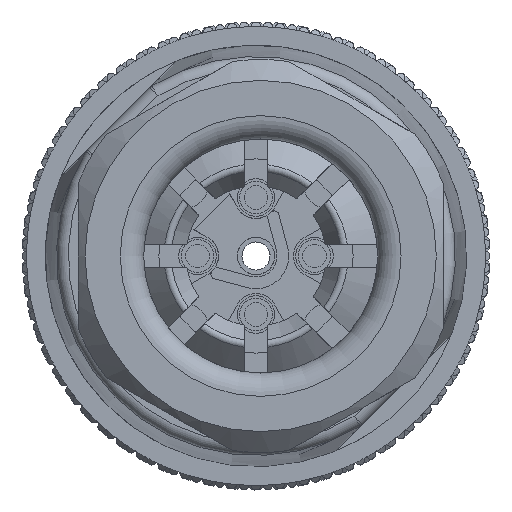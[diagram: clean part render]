
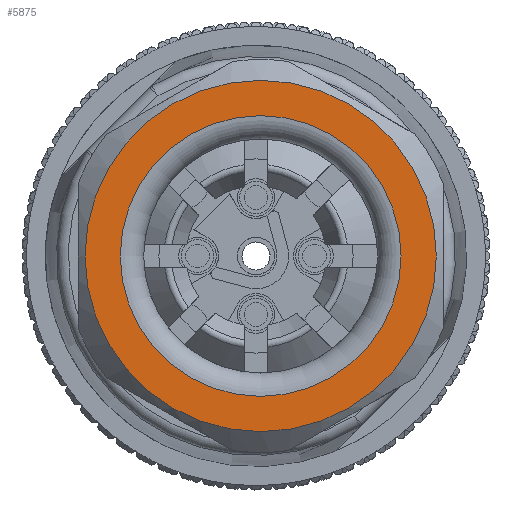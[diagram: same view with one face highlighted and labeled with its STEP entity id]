
A CAD part, front view. The second image highlights one B-rep face of the part: STEP entity #5875.
In plain terms, the highlighted planar face has unit normal (0, -1, 0).
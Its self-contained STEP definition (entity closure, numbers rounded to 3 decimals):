
#898=PLANE('',#21488);
#5875=ADVANCED_FACE('',(#6612,#6613),#898,.F.);
#6612=FACE_BOUND('',#7899,.T.);
#6613=FACE_BOUND('',#7900,.T.);
#7899=EDGE_LOOP('',(#13090));
#7900=EDGE_LOOP('',(#13091));
#13090=ORIENTED_EDGE('',*,*,#18072,.T.);
#13091=ORIENTED_EDGE('',*,*,#18073,.T.);
#15350=VERTEX_POINT('',#49148);
#15351=VERTEX_POINT('',#49150);
#18072=EDGE_CURVE('',#15350,#15350,#19387,.T.);
#18073=EDGE_CURVE('',#15351,#15351,#19388,.T.);
#19387=CIRCLE('',#21486,6.);
#19388=CIRCLE('',#21487,7.507);
#21486=AXIS2_PLACEMENT_3D('',#49147,#26650,#26651);
#21487=AXIS2_PLACEMENT_3D('',#49149,#26652,#26653);
#21488=AXIS2_PLACEMENT_3D('',#49151,#26654,#26655);
#26650=DIRECTION('',(0.,1.,0.));
#26651=DIRECTION('',(1.,0.,0.));
#26652=DIRECTION('',(0.,-1.,0.));
#26653=DIRECTION('',(-1.,0.,0.));
#26654=DIRECTION('',(0.,1.,0.));
#26655=DIRECTION('',(-1.,0.,0.));
#49147=CARTESIAN_POINT('',(0.2,-52.975,0.));
#49148=CARTESIAN_POINT('',(6.2,-52.975,0.));
#49149=CARTESIAN_POINT('',(0.2,-52.975,0.));
#49150=CARTESIAN_POINT('',(-7.307,-52.975,0.));
#49151=CARTESIAN_POINT('',(0.2,-52.975,0.));
